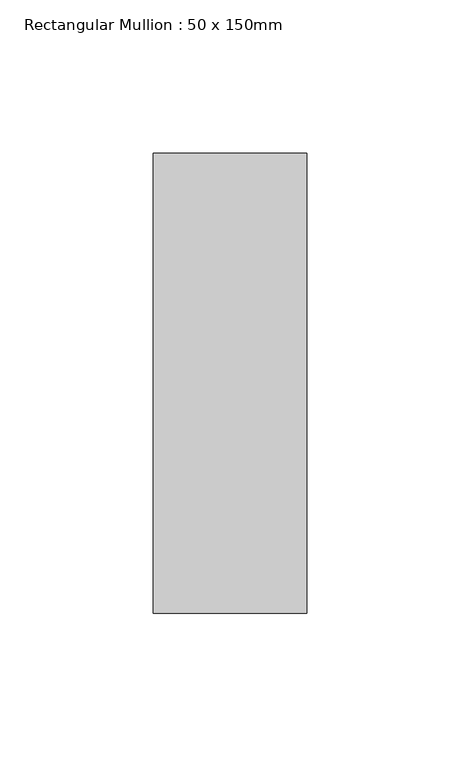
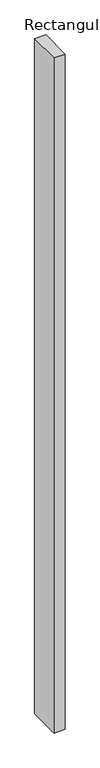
"""IFC4 building model written with IfcOpenShell, lengths in millimetres: member geometry, Rectangular Mullion : 50 x 150mm."""

from ifc_helpers import new_model, si_unit, frame, origin, place, context, project, spatial, polyline, outline, extrude, source, transform, mapped, element, save


def rectangular_mullion_50_x_150mm_f245f1eb(model_context):
    return source(origin(), model_context, "Body", "SweptSolid", [
        extrude(outline(polyline([(25.0, 75.0), (25.0, -75.0), (-25.0, -75.0), (-25.0, 75.0), (25.0, 75.0)])), frame((0.0, 0.0, -3200.0), z_axis=(0.0, 0.0, 1.0), x_axis=(1.0, 0.0, 0.0)), (0.0, 0.0, 1.0), 3200.0),
    ])


if __name__ == "__main__":
    model = new_model("IFC4")
    model_context = context("Model", 3, world=origin())
    ifc_project = project(units=[si_unit("LENGTHUNIT", "METRE", prefix="MILLI")], contexts=[model_context])
    site = spatial("IfcSite", under=ifc_project)
    building = spatial("IfcBuilding", under=site)
    placement = place(None, origin())
    rectangular_mullion_50_x_150mm_shape = rectangular_mullion_50_x_150mm_f245f1eb(model_context)
    element("IfcMember", 1, ObjectType="Rectangular Mullion : 50 x 150mm", at=placement, inside=building, context=model_context, shape_type="MappedRepresentation", body=[
        mapped(rectangular_mullion_50_x_150mm_shape, transform((0.0, 0.0, 0.0), x_axis=(1.0, 0.0, 0.0), y_axis=(0.0, 1.0, 0.0), z_axis=(0.0, 0.0, 1.0))),
    ])
    save(model, "model.ifc")
